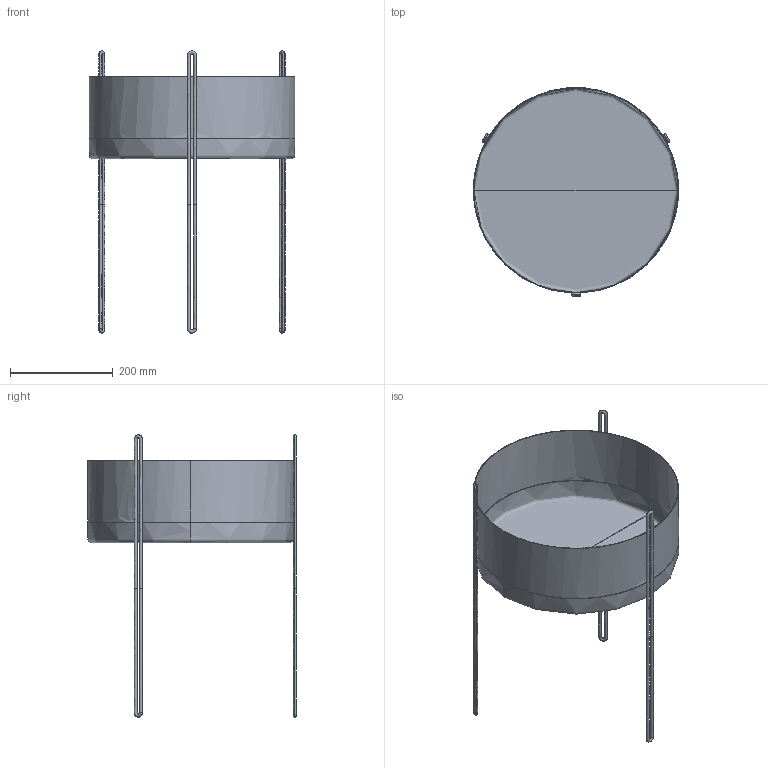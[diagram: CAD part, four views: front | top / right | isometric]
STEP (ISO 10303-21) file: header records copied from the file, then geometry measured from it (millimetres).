
FILE_DESCRIPTION(/* description */ (''),/* implementation_level */ '2;1');
FILE_NAME(/* name */ 'Pidestall flowerpot',/* time_stamp */ '2020-04-02T09:40:22+02:00',/* author */ (''),/* organization */ (''),/* preprocessor_version */ 'ST-DEVELOPER v15',/* originating_system */ '',/* authorisation */ '');
FILE_SCHEMA (('AUTOMOTIVE_DESIGN'));
Length unit declared in the file: millimetre
Products named in the file (1): Document
Bounding box: 400 x 406 x 549.99 mm (x, y, z)
Surface area: 707366.9 mm2 (no closed solid volume)
Topology: 0 solids, 27 shells, 27 faces, 108 edges, 104 vertices
Faces by surface type: bspline 27
Entity records: 13982 total; most frequent: CARTESIAN_POINT 12842, B_SPLINE_CURVE_WITH_KNOTS 112, ORIENTED_EDGE 104, PCURVE 104, DEFINITIONAL_REPRESENTATION 104, SURFACE_CURVE 104, EDGE_CURVE 104, VERTEX_POINT 104
